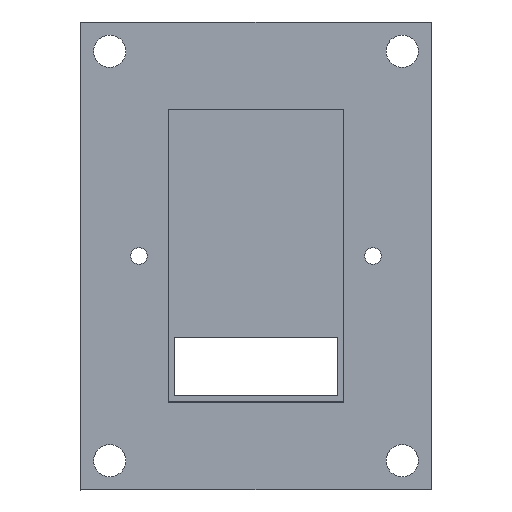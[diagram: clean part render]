
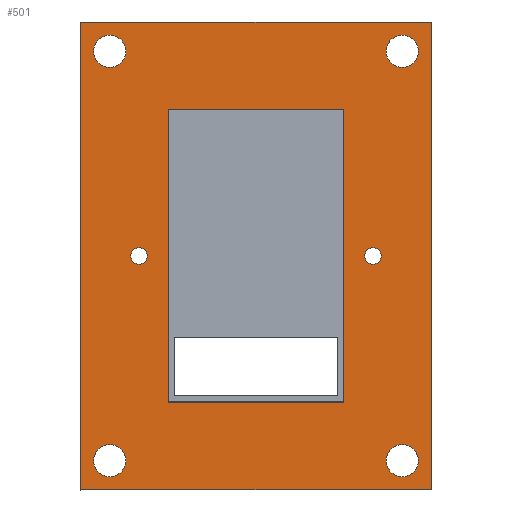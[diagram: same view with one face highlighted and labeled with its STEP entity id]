
A CAD part, top view. The second image highlights one B-rep face of the part: STEP entity #501.
In plain terms, the highlighted planar face has unit normal (0, 0, 1).
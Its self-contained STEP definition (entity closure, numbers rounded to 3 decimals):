
#22=FACE_BOUND('',#101,.T.);
#23=FACE_BOUND('',#102,.T.);
#24=FACE_BOUND('',#103,.T.);
#25=FACE_BOUND('',#104,.T.);
#26=FACE_BOUND('',#105,.T.);
#27=FACE_BOUND('',#106,.T.);
#28=FACE_BOUND('',#107,.T.);
#36=CIRCLE('',#541,1.4);
#37=CIRCLE('',#542,1.4);
#38=CIRCLE('',#543,2.75);
#39=CIRCLE('',#544,2.75);
#40=CIRCLE('',#545,2.75);
#41=CIRCLE('',#546,2.75);
#45=PLANE('',#540);
#66=FACE_OUTER_BOUND('',#100,.T.);
#100=EDGE_LOOP('',(#386,#387,#388,#389));
#101=EDGE_LOOP('',(#390));
#102=EDGE_LOOP('',(#391));
#103=EDGE_LOOP('',(#392));
#104=EDGE_LOOP('',(#393,#394,#395,#396));
#105=EDGE_LOOP('',(#397));
#106=EDGE_LOOP('',(#398));
#107=EDGE_LOOP('',(#399));
#141=LINE('',#735,#193);
#144=LINE('',#740,#196);
#149=LINE('',#764,#201);
#150=LINE('',#765,#202);
#151=LINE('',#774,#203);
#152=LINE('',#776,#204);
#153=LINE('',#778,#205);
#154=LINE('',#779,#206);
#193=VECTOR('',#595,10.);
#196=VECTOR('',#600,10.);
#201=VECTOR('',#621,10.);
#202=VECTOR('',#622,10.);
#203=VECTOR('',#629,10.);
#204=VECTOR('',#630,10.);
#205=VECTOR('',#631,10.);
#206=VECTOR('',#632,10.);
#244=VERTEX_POINT('',#732);
#245=VERTEX_POINT('',#734);
#246=VERTEX_POINT('',#738);
#257=VERTEX_POINT('',#763);
#258=VERTEX_POINT('',#766);
#259=VERTEX_POINT('',#768);
#260=VERTEX_POINT('',#770);
#261=VERTEX_POINT('',#772);
#262=VERTEX_POINT('',#773);
#263=VERTEX_POINT('',#775);
#264=VERTEX_POINT('',#777);
#265=VERTEX_POINT('',#780);
#266=VERTEX_POINT('',#782);
#267=VERTEX_POINT('',#784);
#293=EDGE_CURVE('',#245,#244,#141,.T.);
#296=EDGE_CURVE('',#244,#246,#144,.T.);
#307=EDGE_CURVE('',#246,#257,#149,.T.);
#308=EDGE_CURVE('',#257,#245,#150,.T.);
#309=EDGE_CURVE('',#258,#258,#36,.T.);
#310=EDGE_CURVE('',#259,#259,#37,.T.);
#311=EDGE_CURVE('',#260,#260,#38,.T.);
#312=EDGE_CURVE('',#261,#262,#151,.T.);
#313=EDGE_CURVE('',#263,#261,#152,.T.);
#314=EDGE_CURVE('',#264,#263,#153,.T.);
#315=EDGE_CURVE('',#262,#264,#154,.T.);
#316=EDGE_CURVE('',#265,#265,#39,.T.);
#317=EDGE_CURVE('',#266,#266,#40,.T.);
#318=EDGE_CURVE('',#267,#267,#41,.T.);
#386=ORIENTED_EDGE('',*,*,#293,.T.);
#387=ORIENTED_EDGE('',*,*,#296,.T.);
#388=ORIENTED_EDGE('',*,*,#307,.T.);
#389=ORIENTED_EDGE('',*,*,#308,.T.);
#390=ORIENTED_EDGE('',*,*,#309,.T.);
#391=ORIENTED_EDGE('',*,*,#310,.T.);
#392=ORIENTED_EDGE('',*,*,#311,.T.);
#393=ORIENTED_EDGE('',*,*,#312,.F.);
#394=ORIENTED_EDGE('',*,*,#313,.F.);
#395=ORIENTED_EDGE('',*,*,#314,.F.);
#396=ORIENTED_EDGE('',*,*,#315,.F.);
#397=ORIENTED_EDGE('',*,*,#316,.T.);
#398=ORIENTED_EDGE('',*,*,#317,.T.);
#399=ORIENTED_EDGE('',*,*,#318,.T.);
#501=ADVANCED_FACE('',(#66,#22,#23,#24,#25,#26,#27,#28),#45,.T.);
#540=AXIS2_PLACEMENT_3D('',#762,#619,#620);
#541=AXIS2_PLACEMENT_3D('',#767,#623,#624);
#542=AXIS2_PLACEMENT_3D('',#769,#625,#626);
#543=AXIS2_PLACEMENT_3D('',#771,#627,#628);
#544=AXIS2_PLACEMENT_3D('',#781,#633,#634);
#545=AXIS2_PLACEMENT_3D('',#783,#635,#636);
#546=AXIS2_PLACEMENT_3D('',#785,#637,#638);
#595=DIRECTION('',(0.,1.,0.));
#600=DIRECTION('',(-1.,0.,0.));
#619=DIRECTION('center_axis',(0.,0.,
1.));
#620=DIRECTION('ref_axis',(0.,1.,0.));
#621=DIRECTION('',(0.,-1.,0.));
#622=DIRECTION('',(1.,0.,0.));
#623=DIRECTION('center_axis',(0.,0.,
-1.));
#624=DIRECTION('ref_axis',(0.,1.,0.));
#625=DIRECTION('center_axis',(0.,0.,
-1.));
#626=DIRECTION('ref_axis',(0.,1.,0.));
#627=DIRECTION('center_axis',(0.,0.,
-1.));
#628=DIRECTION('ref_axis',(0.,1.,0.));
#629=DIRECTION('',(0.,1.,0.));
#630=DIRECTION('',(1.,0.,0.));
#631=DIRECTION('',(0.,-1.,0.));
#632=DIRECTION('',(-1.,0.,0.));
#633=DIRECTION('center_axis',(0.,0.,
-1.));
#634=DIRECTION('ref_axis',(0.,1.,0.));
#635=DIRECTION('center_axis',(0.,0.,
-1.));
#636=DIRECTION('ref_axis',(0.,1.,0.));
#637=DIRECTION('center_axis',(0.,0.,
-1.));
#638=DIRECTION('ref_axis',(0.,1.,0.));
#732=CARTESIAN_POINT('',(30.,-17.,-33.));
#734=CARTESIAN_POINT('',(30.,-97.,-33.));
#735=CARTESIAN_POINT('',(30.,-17.,-33.));
#738=CARTESIAN_POINT('',(-30.,-17.,-33.));
#740=CARTESIAN_POINT('',(-30.,-17.,-33.));
#762=CARTESIAN_POINT('Origin',(0.,-57.,-33.));
#763=CARTESIAN_POINT('',(-30.,-97.,-33.));
#764=CARTESIAN_POINT('',(-30.,-97.,-33.));
#765=CARTESIAN_POINT('',(30.,-97.,-33.));
#766=CARTESIAN_POINT('',(20.,-58.4,-33.));
#767=CARTESIAN_POINT('Origin',(20.,-57.,-33.));
#768=CARTESIAN_POINT('',(-20.,-58.4,-33.));
#769=CARTESIAN_POINT('Origin',(-20.,-57.,-33.));
#770=CARTESIAN_POINT('',(-25.,-94.75,-33.));
#771=CARTESIAN_POINT('Origin',(-25.,-92.,-33.));
#772=CARTESIAN_POINT('',(15.,-82.,-33.));
#773=CARTESIAN_POINT('',(15.,-32.,-33.));
#774=CARTESIAN_POINT('',(15.,-69.5,-33.));
#775=CARTESIAN_POINT('',(-15.,-82.,-33.));
#776=CARTESIAN_POINT('',(-7.5,-82.,-33.));
#777=CARTESIAN_POINT('',(-15.,-32.,-33.));
#778=CARTESIAN_POINT('',(-15.,-44.5,-33.));
#779=CARTESIAN_POINT('',(7.5,-32.,-33.));
#780=CARTESIAN_POINT('',(25.,-24.75,-33.));
#781=CARTESIAN_POINT('Origin',(25.,-22.,-33.));
#782=CARTESIAN_POINT('',(25.,-94.75,-33.));
#783=CARTESIAN_POINT('Origin',(25.,-92.,-33.));
#784=CARTESIAN_POINT('',(-25.,-24.75,-33.));
#785=CARTESIAN_POINT('Origin',(-25.,-22.,-33.));
